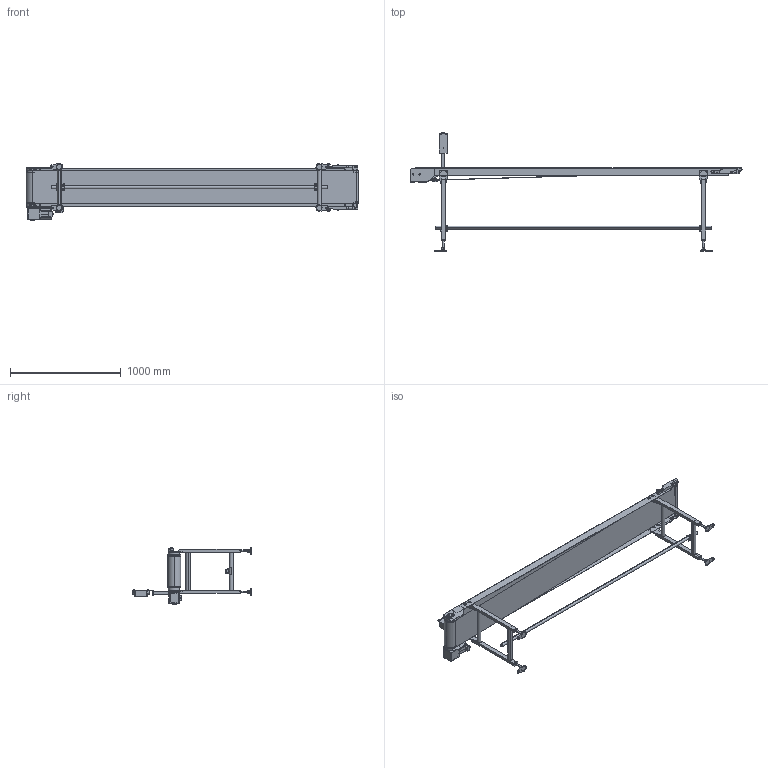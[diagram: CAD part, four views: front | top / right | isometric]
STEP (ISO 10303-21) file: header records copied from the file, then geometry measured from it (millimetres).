
FILE_DESCRIPTION( (''), '2;1');
FILE_NAME ('FB23-HS-309-300-300-R-K-100.stp','2025-02-17T10:01:02',(''),(''),'spGate 20.6.2 (****-****-****-****)','','');
FILE_SCHEMA (('AUTOMOTIVE_DESIGN'));
Length unit declared in the file: millimetre
Products named in the file (49): NewModel; FB23-HS-300-3000-R; TEMP_X_T-prt0; TEMP_X_T-prt1; TEMP_X_T-prt2; TEMP_X_T-prt3; TEMP_X_T-prt4; TEMP_X_T-prt5; TEMP_X_T-prt6; TEMP_X_T-prt7; TEMP_X_T-prt8; TEMP_X_T-prt9; TEMP_X_T-prt10; TEMP_X_T-prt11; TEMP_X_T-prt12; TEMP_X_T-prt13; TEMP_X_T-prt14; TEMP_X_T-prt15; TEMP_X_T-prt16; TEMP_X_T-prt17; TEMP_X_T-prt18; TEMP_X_T-prt19; TEMP_X_T-prt20; TEMP_X_T-prt21; TEMP_X_T-prt22; TEMP_X_T-prt23; TEMP_X_T-prt24; TEMP_X_T-prt25; TEMP_X_T-prt26; TEMP_X_T-prt27; TEMP_X_T-prt28; TEMP_X_T-prt29; TEMP_X_T-prt30; TEMP_X_T-prt31; TEMP_X_T-prt32; TEMP_X_T-prt33; TEMP_X_T-prt34; TEMP_X_T-prt35; TEMP_X_T-prt36; TEMP_X_T-prt37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
Assembly tree (48 placements, depth 3):
  NewModel
    FB23-HS-300-3000-R
      TEMP_X_T-prt0
      TEMP_X_T-prt1
      TEMP_X_T-prt2
      TEMP_X_T-prt3
      TEMP_X_T-prt4
      TEMP_X_T-prt5
      TEMP_X_T-prt6
      TEMP_X_T-prt7
      TEMP_X_T-prt8
      TEMP_X_T-prt9
      TEMP_X_T-prt10
      TEMP_X_T-prt11
      TEMP_X_T-prt12
      TEMP_X_T-prt13
      TEMP_X_T-prt14
      TEMP_X_T-prt15
      TEMP_X_T-prt16
      TEMP_X_T-prt17
      TEMP_X_T-prt18
      TEMP_X_T-prt19
      TEMP_X_T-prt20
      TEMP_X_T-prt21
      TEMP_X_T-prt22
      TEMP_X_T-prt23
      TEMP_X_T-prt24
      TEMP_X_T-prt25
      TEMP_X_T-prt26
      TEMP_X_T-prt27
      TEMP_X_T-prt28
      TEMP_X_T-prt29
      TEMP_X_T-prt30
      TEMP_X_T-prt31
      TEMP_X_T-prt32
      TEMP_X_T-prt33
      TEMP_X_T-prt34
      TEMP_X_T-prt35
      TEMP_X_T-prt36
      TEMP_X_T-prt37
      TEMP_X_T-prt38
      TEMP_X_T-prt39
      TEMP_X_T-prt40
      TEMP_X_T-prt41
      TEMP_X_T-prt42
      TEMP_X_T-prt43
      TEMP_X_T-prt44
      TEMP_X_T-prt45
      TEMP_X_T-prt46
Bounding box: 2999.71 x 1069.5 x 518.5 mm (x, y, z)
Volume: 16771209.3 mm3; surface area: 7968058.9 mm2
Topology: 47 solids, 47 shells, 1561 faces, 3819 edges, 2475 vertices
Faces by surface type: plane 956, cylinder 494, bspline 105, sphere 6
Entity records: 80305 total; most frequent: CARTESIAN_POINT 11393, DIRECTION 7608, ORIENTED_EDGE 7586, COLOUR_RGB 5401, PRESENTATION_STYLE_ASSIGNMENT 5401, STYLED_ITEM 5401, EDGE_CURVE 3793, DRAUGHTING_PRE_DEFINED_CURVE_FONT 3793
